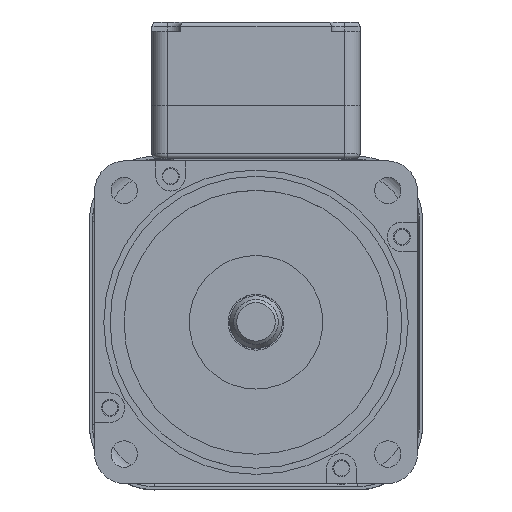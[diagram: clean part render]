
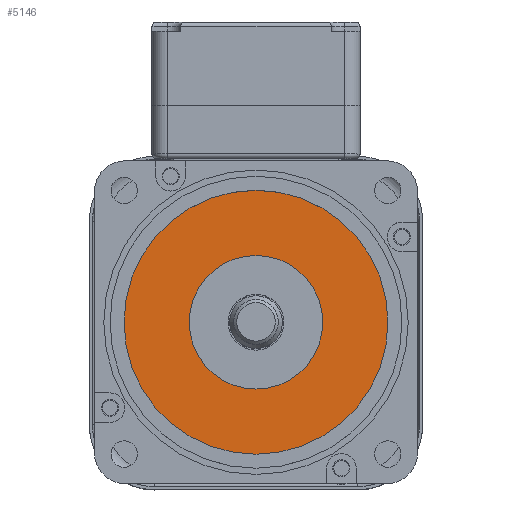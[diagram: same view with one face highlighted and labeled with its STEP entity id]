
A CAD part, top view. The second image highlights one B-rep face of the part: STEP entity #5146.
In plain terms, the highlighted planar face has unit normal (0, 0, 1) as drawn and (-1, 0, 0) by its records, which use the part's own axes.
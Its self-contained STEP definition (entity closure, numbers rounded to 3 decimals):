
#891 = CARTESIAN_POINT ( 'NONE',  ( 4., 0., 0. ) ) ;
#892 = DIRECTION ( 'NONE',  ( -1., 0., 0. ) ) ;
#893 = DIRECTION ( 'NONE',  ( 0., 0., 1. ) ) ;
#942 = CARTESIAN_POINT ( 'NONE',  ( 4., 0., 0. ) ) ;
#943 = DIRECTION ( 'NONE',  ( -1., 0., 0. ) ) ;
#944 = DIRECTION ( 'NONE',  ( 0., 0., 1. ) ) ;
#1071 = CIRCLE ( 'NONE', #22612, 21.5 ) ;
#1098 = CIRCLE ( 'NONE', #22623, 42.5 ) ;
#3591 = CARTESIAN_POINT ( 'NONE',  ( 4., 0., 21.5 ) ) ;
#3598 = CARTESIAN_POINT ( 'NONE',  ( 4., 0., 42.5 ) ) ;
#4245 = VERTEX_POINT ( 'NONE', #3591 ) ;
#4252 = VERTEX_POINT ( 'NONE', #3598 ) ;
#4880 = CARTESIAN_POINT ( 'NONE',  ( 4., 0., 0. ) ) ;
#4882 = PLANE ( 'NONE',  #15023 ) ;
#4884 = DIRECTION ( 'NONE',  ( -1., 0., 0. ) ) ;
#4885 = DIRECTION ( 'NONE',  ( 0., 0., 1. ) ) ;
#5146 = ADVANCED_FACE ( 'NONE', ( #15781, #15786 ), #4882, .T. ) ;
#6805 = ORIENTED_EDGE ( 'NONE', *, *, #14613, .F. ) ;
#6806 = ORIENTED_EDGE ( 'NONE', *, *, #14632, .T. ) ;
#13961 = EDGE_LOOP ( 'NONE', ( #6805 ) ) ;
#13970 = EDGE_LOOP ( 'NONE', ( #6806 ) ) ;
#14613 = EDGE_CURVE ( 'NONE', #4245, #4245, #1071, .T. ) ;
#14632 = EDGE_CURVE ( 'NONE', #4252, #4252, #1098, .T. ) ;
#15023 = AXIS2_PLACEMENT_3D ( 'NONE', #4880, #4884, #4885 ) ;
#15781 = FACE_BOUND ( 'NONE', #13961, .T. ) ;
#15786 = FACE_OUTER_BOUND ( 'NONE', #13970, .T. ) ;
#22612 = AXIS2_PLACEMENT_3D ( 'NONE', #891, #892, #893 ) ;
#22623 = AXIS2_PLACEMENT_3D ( 'NONE', #942, #943, #944 ) ;
